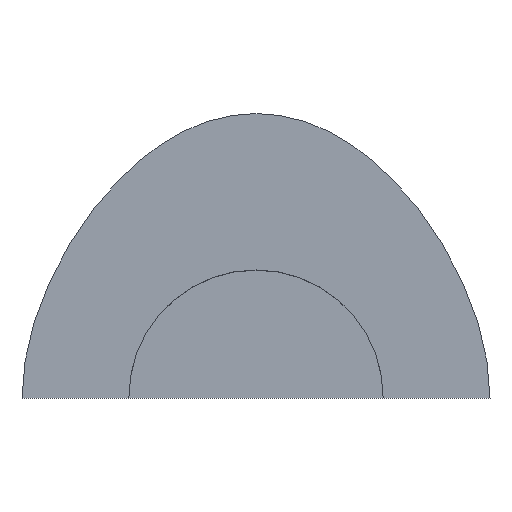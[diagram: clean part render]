
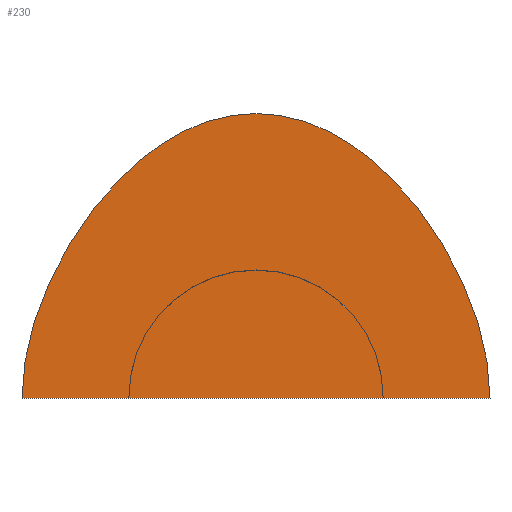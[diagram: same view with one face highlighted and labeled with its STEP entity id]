
A CAD part, top view. The second image highlights one B-rep face of the part: STEP entity #230.
In plain terms, the highlighted planar face has unit normal (0, 0, 1).
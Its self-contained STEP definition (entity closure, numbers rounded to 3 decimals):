
#193=CARTESIAN_POINT('Axis2P3D Location',(0.,45.366,0.)) ;
#198=CARTESIAN_POINT('Line Origine',(0.,0.,0.)) ;
#202=CARTESIAN_POINT('Vertex',(-92.,0.,0.)) ;
#204=CARTESIAN_POINT('Vertex',(92.,0.,0.)) ;
#208=CARTESIAN_POINT('Control Point',(0.,112.,0.)) ;
#209=CARTESIAN_POINT('Control Point',(28.988,112.,0.)) ;
#210=CARTESIAN_POINT('Control Point',(55.612,94.871,0.)) ;
#211=CARTESIAN_POINT('Control Point',(79.871,60.612,0.)) ;
#212=CARTESIAN_POINT('Control Point',(92.,28.988,0.)) ;
#213=CARTESIAN_POINT('Control Point',(92.,0.,0.)) ;
#214=CARTESIAN_POINT('Vertex',(0.,112.,0.)) ;
#218=CARTESIAN_POINT('Control Point',(0.,112.,0.)) ;
#219=CARTESIAN_POINT('Control Point',(-28.988,112.,0.)) ;
#220=CARTESIAN_POINT('Control Point',(-55.612,94.871,0.)) ;
#221=CARTESIAN_POINT('Control Point',(-79.871,60.612,0.)) ;
#222=CARTESIAN_POINT('Control Point',(-92.,28.988,0.)) ;
#223=CARTESIAN_POINT('Control Point',(-92.,0.,0.)) ;
#194=DIRECTION('Axis2P3D Direction',(0.,0.,1.)) ;
#195=DIRECTION('Axis2P3D XDirection',(1.,0.,0.)) ;
#199=DIRECTION('Vector Direction',(1.,0.,0.)) ;
#196=AXIS2_PLACEMENT_3D('Plane Axis2P3D',#193,#194,#195) ;
#226=ORIENTED_EDGE('',*,*,#206,.T.) ;
#227=ORIENTED_EDGE('',*,*,#216,.T.) ;
#228=ORIENTED_EDGE('',*,*,#224,.T.) ;
#200=VECTOR('Line Direction',#199,1.) ;
#230=ADVANCED_FACE('Fill.1',(#229),#197,.T.) ;
#207=B_SPLINE_CURVE_WITH_KNOTS('',5,(#208,#209,#210,#211,#212,#213),.UNSPECIFIED.,.F.,.U.,(6,6),(0.,144.941),.UNSPECIFIED.) ;
#217=B_SPLINE_CURVE_WITH_KNOTS('',5,(#218,#219,#220,#221,#222,#223),.UNSPECIFIED.,.F.,.U.,(6,6),(0.,144.941),.UNSPECIFIED.) ;
#206=EDGE_CURVE('',#203,#205,#201,.T.) ;
#216=EDGE_CURVE('',#205,#215,#207,.F.) ;
#224=EDGE_CURVE('',#215,#203,#217,.T.) ;
#225=EDGE_LOOP('',(#226,#227,#228)) ;
#229=FACE_OUTER_BOUND('',#225,.T.) ;
#201=LINE('Line',#198,#200) ;
#197=PLANE('',#196) ;
#203=VERTEX_POINT('',#202) ;
#205=VERTEX_POINT('',#204) ;
#215=VERTEX_POINT('',#214) ;
